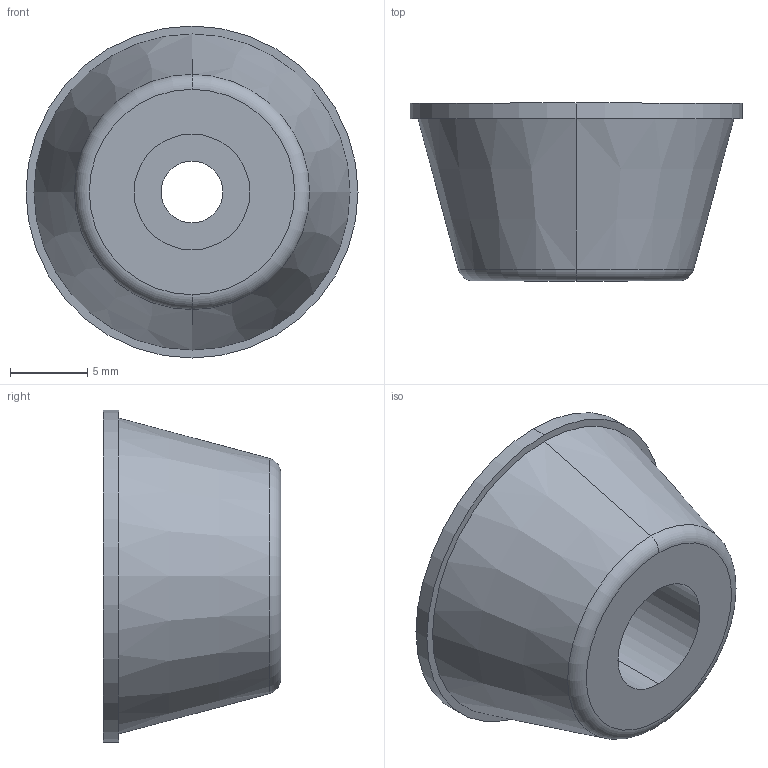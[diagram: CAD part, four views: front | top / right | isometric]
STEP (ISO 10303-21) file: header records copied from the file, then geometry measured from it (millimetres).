
FILE_DESCRIPTION (( 'STEP AP214' ), '1' );
FILE_NAME ('rubber_foot.STEP', '2015-02-26T22:50:37', ( '' ), ( '' ), '', '', '' );
FILE_SCHEMA (( '' ));
Length unit declared in the file: millimetre
Products named in the file (1): rubber_foot
Bounding box: 21.5 x 11.5 x 21.5 mm (x, y, z)
Volume: 2535.6 mm3; surface area: 1442.5 mm2
Topology: 1 solids, 1 shells, 14 faces, 28 edges, 18 vertices
Faces by surface type: cylinder 6, plane 4, torus 2, cone 2
Entity records: 403 total; most frequent: DIRECTION 78, CARTESIAN_POINT 61, ORIENTED_EDGE 56, AXIS2_PLACEMENT_3D 35, EDGE_CURVE 28, CIRCLE 20, EDGE_LOOP 18, VERTEX_POINT 18
